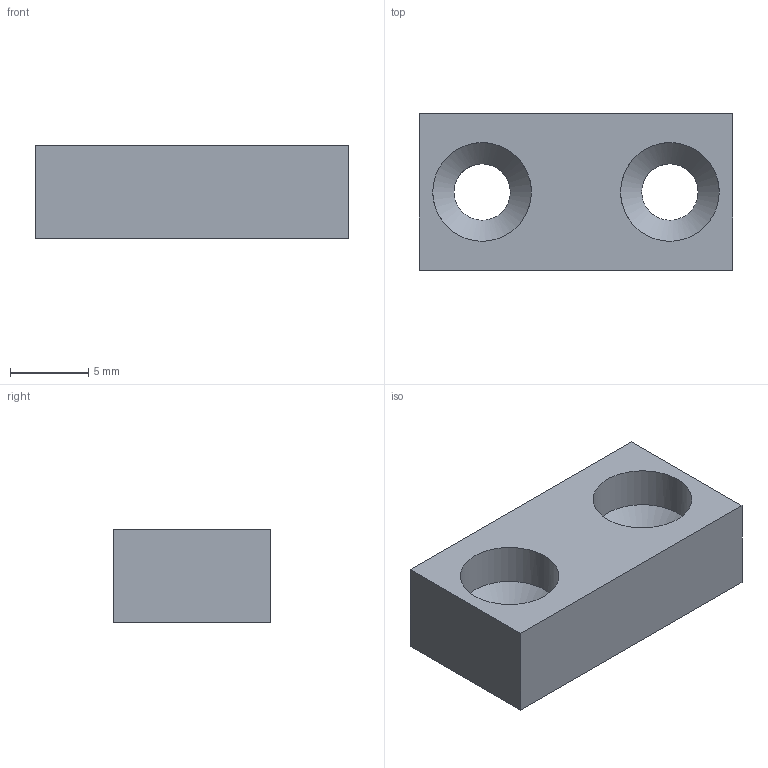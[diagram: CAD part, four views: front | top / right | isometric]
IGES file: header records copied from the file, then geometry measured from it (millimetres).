
Global section: file name: 42.06; native system: Autodesk Inventor 2014; preprocessor: unknown; author: APto; date: 20160506.090535; units: millimetre
Bounding box: 20 x 10 x 6 mm (x, y, z)
Volume: 940.8 mm3; surface area: 886.9 mm2
Topology: 1 solids, 1 shells, 12 faces, 32 edges, 22 vertices
Faces by surface type: bspline 12
